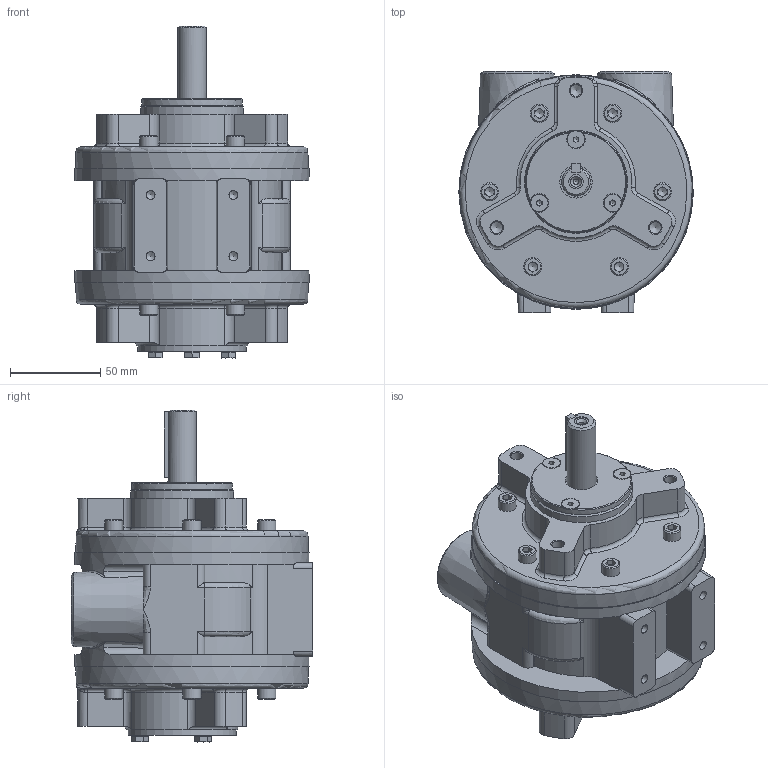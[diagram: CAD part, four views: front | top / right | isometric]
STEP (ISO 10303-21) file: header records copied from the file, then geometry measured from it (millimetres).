
FILE_DESCRIPTION (( 'STEP AP214' ), '1' );
FILE_NAME ('VA6X Defeature.STEP', '2022-06-14T08:49:37', ( '' ), ( '' ), 'SwSTEP 2.0', 'SolidWorks 2020', '' );
FILE_SCHEMA (( 'AUTOMOTIVE_DESIGN' ));
Length unit declared in the file: millimetre
Products named in the file (1): VA6X Defeature
Bounding box: 130 x 134 x 184.25 mm (x, y, z)
Volume: 1264821.2 mm3; surface area: 101469 mm2
Topology: 1 solids, 4 shells, 630 faces, 1546 edges, 940 vertices
Faces by surface type: plane 319, cylinder 138, cone 77, torus 49, bspline 40, sphere 7
Full cylindrical faces by diameter (mm): 3 x1, 5 x7, 5.5 x3, 6.528 x3, 8 x4, 9.64 x3, 10 x12, 15.875 x1, 18 x1, 24.117 x2, 56 x1, 57.15 x1, 60 x1, 128 x2, 129 x2, 130 x2
Entity records: 24642 total; most frequent: CARTESIAN_POINT 8140, DIRECTION 2853, ORIENTED_EDGE 2748, EDGE_CURVE 1374, AXIS2_PLACEMENT_3D 1101, VERTEX_POINT 874, EDGE_LOOP 758, FACE_OUTER_BOUND 679
